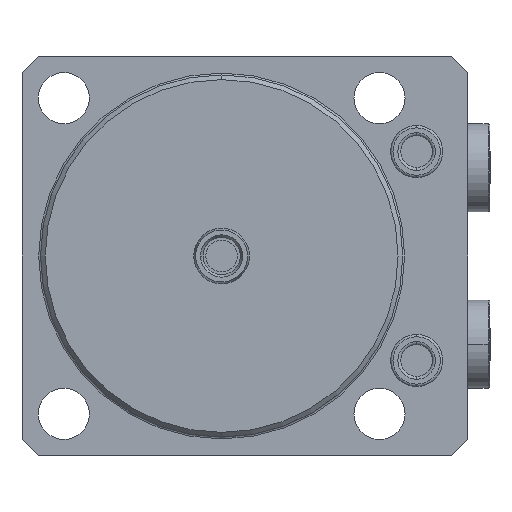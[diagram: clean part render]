
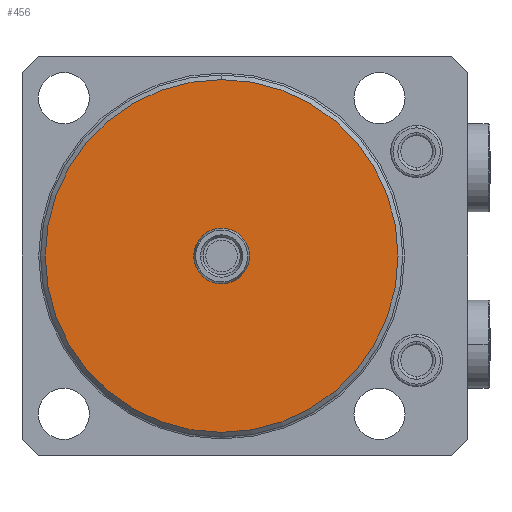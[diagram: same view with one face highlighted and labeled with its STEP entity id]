
A CAD part, front view. The second image highlights one B-rep face of the part: STEP entity #456.
In plain terms, the highlighted planar face has unit normal (0, -1, 0) as drawn and (0, 1, 0) by its records, which use the part's own axes.
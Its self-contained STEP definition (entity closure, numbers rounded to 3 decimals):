
#196=PLANE('',#4769);
#306=FACE_BOUND('',#1098,.F.);
#307=FACE_BOUND('',#1099,.F.);
#456=ADVANCED_FACE('',(#306,#307),#196,.T.);
#1098=EDGE_LOOP('',(#1945,#1946));
#1099=EDGE_LOOP('',(#1947,#1948));
#1380=CIRCLE('',#4656,6.);
#1435=CIRCLE('',#4734,38.);
#1453=CIRCLE('',#4767,6.);
#1454=CIRCLE('',#4768,38.);
#1945=ORIENTED_EDGE('',*,*,#3585,.T.);
#1946=ORIENTED_EDGE('',*,*,#3408,.T.);
#1947=ORIENTED_EDGE('',*,*,#3586,.T.);
#1948=ORIENTED_EDGE('',*,*,#3496,.T.);
#2984=VERTEX_POINT('',#6761);
#2985=VERTEX_POINT('',#6762);
#3056=VERTEX_POINT('',#6949);
#3057=VERTEX_POINT('',#6950);
#3408=EDGE_CURVE('',#2984,#2985,#1380,.T.);
#3496=EDGE_CURVE('',#3056,#3057,#1435,.T.);
#3585=EDGE_CURVE('',#2985,#2984,#1453,.T.);
#3586=EDGE_CURVE('',#3057,#3056,#1454,.T.);
#4656=AXIS2_PLACEMENT_3D('',#6760,#5296,#5297);
#4734=AXIS2_PLACEMENT_3D('',#6948,#5484,#5485);
#4767=AXIS2_PLACEMENT_3D('',#7207,#5598,#5599);
#4768=AXIS2_PLACEMENT_3D('',#7208,#5600,#5601);
#4769=AXIS2_PLACEMENT_3D('',#7209,#5602,#5603);
#5296=DIRECTION('',(0.,1.,0.));
#5297=DIRECTION('',(0.,0.,1.));
#5484=DIRECTION('',(0.,-1.,0.));
#5485=DIRECTION('',(0.,0.,1.));
#5598=DIRECTION('',(0.,1.,0.));
#5599=DIRECTION('',(0.,0.,1.));
#5600=DIRECTION('',(0.,-1.,0.));
#5601=DIRECTION('',(0.,0.,1.));
#5602=DIRECTION('',(0.,1.,0.));
#5603=DIRECTION('',(0.,0.,1.));
#6760=CARTESIAN_POINT('',(0.,-55.,0.));
#6761=CARTESIAN_POINT('',(0.,-55.,-6.));
#6762=CARTESIAN_POINT('',(0.,-55.,6.));
#6948=CARTESIAN_POINT('',(0.,-55.,0.));
#6949=CARTESIAN_POINT('',(0.,-55.,-38.));
#6950=CARTESIAN_POINT('',(0.,-55.,38.));
#7207=CARTESIAN_POINT('',(0.,-55.,0.));
#7208=CARTESIAN_POINT('',(0.,-55.,0.));
#7209=CARTESIAN_POINT('',(0.,-55.,0.));
